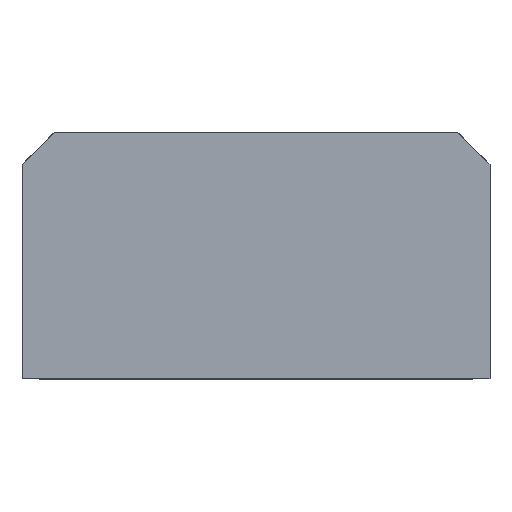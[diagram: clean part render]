
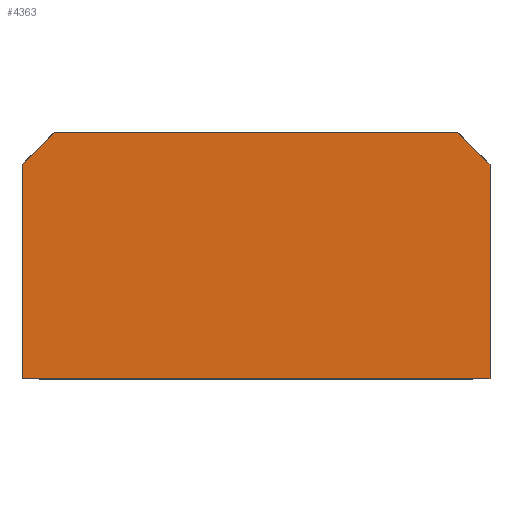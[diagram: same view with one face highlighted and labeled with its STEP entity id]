
A CAD part, top view. The second image highlights one B-rep face of the part: STEP entity #4363.
In plain terms, the highlighted planar face has unit normal (0, 0, 1).
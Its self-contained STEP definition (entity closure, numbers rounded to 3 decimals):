
#273 = LINE ( 'NONE', #4763, #1699 ) ;
#332 = EDGE_CURVE ( 'NONE', #2192, #570, #273, .T. ) ;
#570 = VERTEX_POINT ( 'NONE', #1937 ) ;
#986 = EDGE_CURVE ( 'NONE', #4634, #3382, #4036, .T. ) ;
#1023 = DIRECTION ( 'NONE',  ( -0.707, 0.707, 0. ) ) ;
#1051 = EDGE_CURVE ( 'NONE', #2455, #2192, #4199, .T. ) ;
#1343 = ORIENTED_EDGE ( 'NONE', *, *, #3677, .F. ) ;
#1660 = PLANE ( 'NONE',  #4670 ) ;
#1699 = VECTOR ( 'NONE', #2248, 1000. ) ;
#1937 = CARTESIAN_POINT ( 'NONE',  ( 36.5, 16.7, 63.1 ) ) ;
#1956 = ORIENTED_EDGE ( 'NONE', *, *, #986, .T. ) ;
#2192 = VERTEX_POINT ( 'NONE', #3853 ) ;
#2248 = DIRECTION ( 'NONE',  ( 0., 1., 0. ) ) ;
#2316 = VECTOR ( 'NONE', #5541, 1000. ) ;
#2373 = CARTESIAN_POINT ( 'NONE',  ( 0., 16.7, 63.1 ) ) ;
#2455 = VERTEX_POINT ( 'NONE', #3235 ) ;
#2519 = CARTESIAN_POINT ( 'NONE',  ( 2.5, 19.2, 63.1 ) ) ;
#2760 = VERTEX_POINT ( 'NONE', #3275 ) ;
#3039 = VECTOR ( 'NONE', #3230, 1000. ) ;
#3063 = ORIENTED_EDGE ( 'NONE', *, *, #4833, .F. ) ;
#3135 = VECTOR ( 'NONE', #5273, 1000. ) ;
#3230 = DIRECTION ( 'NONE',  ( 1., 0., 0. ) ) ;
#3235 = CARTESIAN_POINT ( 'NONE',  ( 0., 0., 63.1 ) ) ;
#3275 = CARTESIAN_POINT ( 'NONE',  ( 34., 19.2, 63.1 ) ) ;
#3382 = VERTEX_POINT ( 'NONE', #2373 ) ;
#3558 = EDGE_LOOP ( 'NONE', ( #3063, #1956, #1343, #5421, #4255, #4217 ) ) ;
#3677 = EDGE_CURVE ( 'NONE', #2455, #3382, #6309, .T. ) ;
#3853 = CARTESIAN_POINT ( 'NONE',  ( 36.5, 0., 63.1 ) ) ;
#4006 = CARTESIAN_POINT ( 'NONE',  ( 34., 19.2, 63.1 ) ) ;
#4036 = LINE ( 'NONE', #5476, #6024 ) ;
#4171 = LINE ( 'NONE', #6120, #3039 ) ;
#4180 = DIRECTION ( 'NONE',  ( 0., 0., -1. ) ) ;
#4199 = LINE ( 'NONE', #6146, #2316 ) ;
#4217 = ORIENTED_EDGE ( 'NONE', *, *, #6048, .T. ) ;
#4255 = ORIENTED_EDGE ( 'NONE', *, *, #332, .T. ) ;
#4290 = CARTESIAN_POINT ( 'NONE',  ( 0., 0., 63.1 ) ) ;
#4363 = ADVANCED_FACE ( 'NONE', ( #5044 ), #1660, .F. ) ;
#4634 = VERTEX_POINT ( 'NONE', #2519 ) ;
#4670 = AXIS2_PLACEMENT_3D ( 'NONE', #5231, #4180, #4778 ) ;
#4763 = CARTESIAN_POINT ( 'NONE',  ( 36.5, 0., 63.1 ) ) ;
#4778 = DIRECTION ( 'NONE',  ( 1., 0., 0. ) ) ;
#4833 = EDGE_CURVE ( 'NONE', #4634, #2760, #4171, .T. ) ;
#5044 = FACE_OUTER_BOUND ( 'NONE', #3558, .T. ) ;
#5056 = VECTOR ( 'NONE', #1023, 1000. ) ;
#5231 = CARTESIAN_POINT ( 'NONE',  ( 0., 0., 63.1 ) ) ;
#5273 = DIRECTION ( 'NONE',  ( 0., 1., 0. ) ) ;
#5421 = ORIENTED_EDGE ( 'NONE', *, *, #1051, .T. ) ;
#5476 = CARTESIAN_POINT ( 'NONE',  ( 0., 16.7, 63.1 ) ) ;
#5541 = DIRECTION ( 'NONE',  ( 1., 0., 0. ) ) ;
#5923 = LINE ( 'NONE', #4006, #5056 ) ;
#5990 = DIRECTION ( 'NONE',  ( -0.707, -0.707, 0. ) ) ;
#6024 = VECTOR ( 'NONE', #5990, 1000. ) ;
#6048 = EDGE_CURVE ( 'NONE', #570, #2760, #5923, .T. ) ;
#6120 = CARTESIAN_POINT ( 'NONE',  ( 0., 19.2, 63.1 ) ) ;
#6146 = CARTESIAN_POINT ( 'NONE',  ( 0., 0., 63.1 ) ) ;
#6309 = LINE ( 'NONE', #4290, #3135 ) ;
